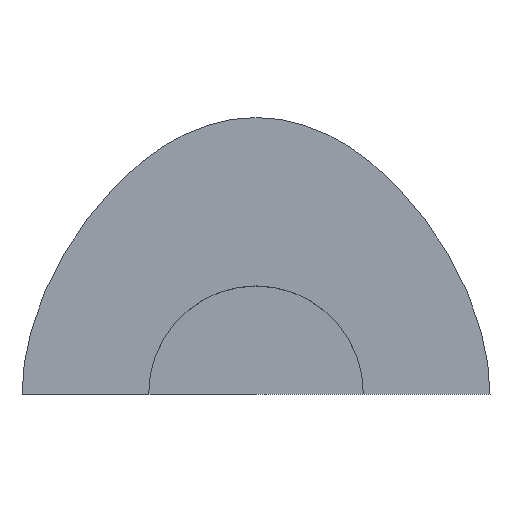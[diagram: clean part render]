
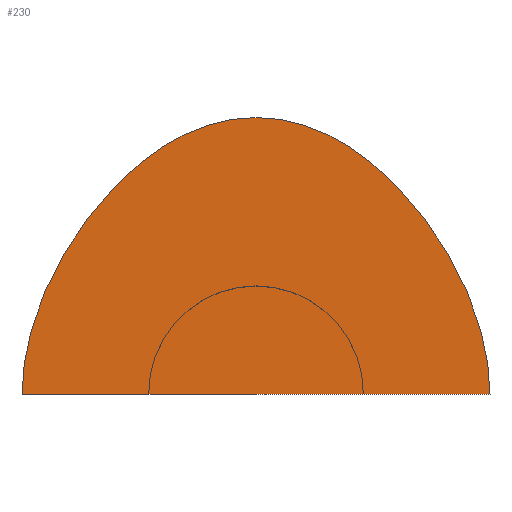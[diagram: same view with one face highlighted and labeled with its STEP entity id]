
A CAD part, top view. The second image highlights one B-rep face of the part: STEP entity #230.
In plain terms, the highlighted planar face has unit normal (0, 0, 1).
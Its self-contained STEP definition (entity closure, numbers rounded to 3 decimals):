
#193=CARTESIAN_POINT('Axis2P3D Location',(0.,52.359,0.)) ;
#198=CARTESIAN_POINT('Line Origine',(0.,0.,0.)) ;
#202=CARTESIAN_POINT('Vertex',(-109.,0.,0.)) ;
#204=CARTESIAN_POINT('Vertex',(109.,0.,0.)) ;
#208=CARTESIAN_POINT('Control Point',(0.,129.,0.)) ;
#209=CARTESIAN_POINT('Control Point',(33.777,129.,0.)) ;
#210=CARTESIAN_POINT('Control Point',(65.249,109.416,0.)) ;
#211=CARTESIAN_POINT('Control Point',(94.416,70.249,0.)) ;
#212=CARTESIAN_POINT('Control Point',(109.,33.777,0.)) ;
#213=CARTESIAN_POINT('Control Point',(109.,0.,0.)) ;
#214=CARTESIAN_POINT('Vertex',(0.,129.,0.)) ;
#218=CARTESIAN_POINT('Control Point',(0.,129.,0.)) ;
#219=CARTESIAN_POINT('Control Point',(-33.777,129.,0.)) ;
#220=CARTESIAN_POINT('Control Point',(-65.249,109.416,0.)) ;
#221=CARTESIAN_POINT('Control Point',(-94.416,70.249,0.)) ;
#222=CARTESIAN_POINT('Control Point',(-109.,33.777,0.)) ;
#223=CARTESIAN_POINT('Control Point',(-109.,0.,0.)) ;
#194=DIRECTION('Axis2P3D Direction',(0.,0.,1.)) ;
#195=DIRECTION('Axis2P3D XDirection',(1.,0.,0.)) ;
#199=DIRECTION('Vector Direction',(1.,0.,0.)) ;
#196=AXIS2_PLACEMENT_3D('Plane Axis2P3D',#193,#194,#195) ;
#226=ORIENTED_EDGE('',*,*,#206,.T.) ;
#227=ORIENTED_EDGE('',*,*,#216,.T.) ;
#228=ORIENTED_EDGE('',*,*,#224,.T.) ;
#200=VECTOR('Line Direction',#199,1.) ;
#230=ADVANCED_FACE('Fill.1',(#229),#197,.T.) ;
#207=B_SPLINE_CURVE_WITH_KNOTS('',5,(#208,#209,#210,#211,#212,#213),.UNSPECIFIED.,.F.,.U.,(6,6),(0.,168.885),.UNSPECIFIED.) ;
#217=B_SPLINE_CURVE_WITH_KNOTS('',5,(#218,#219,#220,#221,#222,#223),.UNSPECIFIED.,.F.,.U.,(6,6),(0.,168.885),.UNSPECIFIED.) ;
#206=EDGE_CURVE('',#203,#205,#201,.T.) ;
#216=EDGE_CURVE('',#205,#215,#207,.F.) ;
#224=EDGE_CURVE('',#215,#203,#217,.T.) ;
#225=EDGE_LOOP('',(#226,#227,#228)) ;
#229=FACE_OUTER_BOUND('',#225,.T.) ;
#201=LINE('Line',#198,#200) ;
#197=PLANE('',#196) ;
#203=VERTEX_POINT('',#202) ;
#205=VERTEX_POINT('',#204) ;
#215=VERTEX_POINT('',#214) ;
